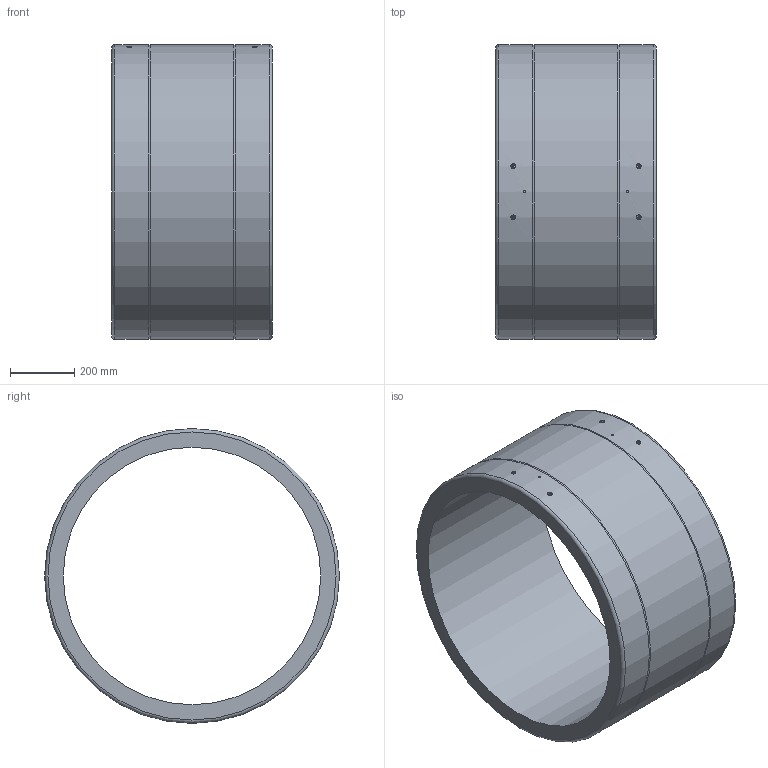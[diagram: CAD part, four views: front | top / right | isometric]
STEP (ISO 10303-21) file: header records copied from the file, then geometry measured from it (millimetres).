
FILE_DESCRIPTION(/* description */ ('Unknown'),/* implementation_level */ '2;1');
FILE_NAME(/* name */ 'MP800B',/* time_stamp */ '2021-12-09T15:49:17+01:00',/* author */ ('Unknown'),/* organization */ ('Unknown'),/* preprocessor_version */ 'ST-DEVELOPER v16.7',/* originating_system */ 'Solid Edge',/* authorisation */ 'Unknown');
FILE_SCHEMA (('AUTOMOTIVE_DESIGN {1 0 10303 214 3 1 1}'));
Length unit declared in the file: millimetre
Products named in the file (1): MP800B
Bounding box: 500 x 916 x 916 mm (x, y, z)
Volume: 77701222.7 mm3; surface area: 2982885.6 mm2
Topology: 1 solids, 1 shells, 34 faces, 65 edges, 41 vertices
Faces by surface type: cylinder 14, plane 12, bspline 4, cone 2, torus 2
Full cylindrical faces by diameter (mm): 4 x4, 6 x2, 13 x4, 800 x1, 915 x2, 916 x1
Entity records: 1104 total; most frequent: CARTESIAN_POINT 531, DIRECTION 110, ORIENTED_EDGE 68, EDGE_LOOP 68, FACE_BOUND 68, AXIS2_PLACEMENT_3D 55, EDGE_CURVE 34, VERTEX_POINT 34
